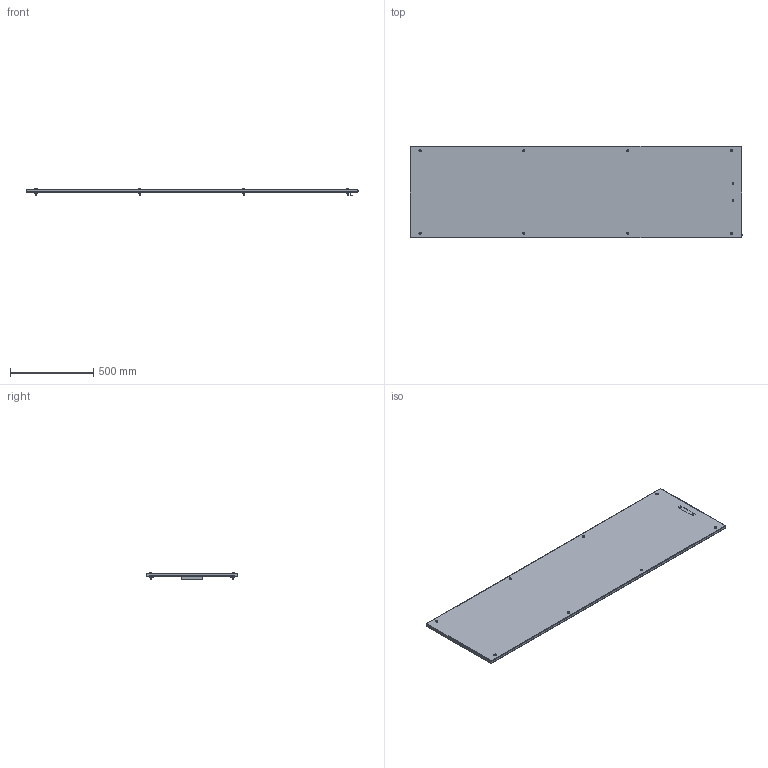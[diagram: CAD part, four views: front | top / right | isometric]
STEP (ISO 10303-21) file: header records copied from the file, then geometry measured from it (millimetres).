
FILE_DESCRIPTION((''),'2;1');
FILE_NAME('MODEL-139_ASM','2023-06-30T15:23:31',('Tony.Gonzales'),('SAGINAW CONTROL & ENGINEERING'),'CREO PARAMETRIC BY PTC INC, 2021284','CREO PARAMETRIC BY PTC INC, 2021284','');
FILE_SCHEMA(('AUTOMOTIVE_DESIGN { 1 0 10303 214 1 1 1 1 }'));
Length unit declared in the file: inch
Products named in the file (15): MODEL-139-END-PLATE; 100064; 100682; 111836; 100877; 110827; 108365; 108364; 101682; 108104; 111954_ASM; 102410; 128337_ASM; 108619_ASM; MODEL-139_ASM
Assembly tree (52 placements, depth 4):
  MODEL-139_ASM
    MODEL-139-END-PLATE
    100064  x2
    108619_ASM
      100682
      111836
      111954_ASM
        100877  x2
        110827  x8
        108365  x8
        108364  x8
        101682  x8
        108104  x8
      128337_ASM
        102410  x2
Bounding box: 1995.17 x 552.45 x 45.16 mm (x, y, z)
Volume: 2083883.9 mm3; surface area: 2740411.1 mm2
Topology: 54 solids, 56 shells, 1590 faces, 4020 edges, 2388 vertices
Faces by surface type: plane 690, cylinder 416, bspline 240, torus 112, cone 92, sphere 40
Entity records: 23797 total; most frequent: CARTESIAN_POINT 6084, DIRECTION 2634, ORIENTED_EDGE 2460, PRESENTATION_STYLE_ASSIGNMENT 1245, STYLED_ITEM 1245, CURVE_STYLE 1230, EDGE_CURVE 1230, AXIS2_PLACEMENT_3D 1045
